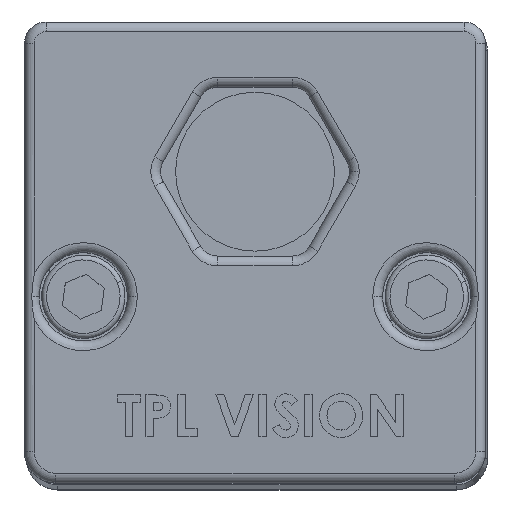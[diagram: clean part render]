
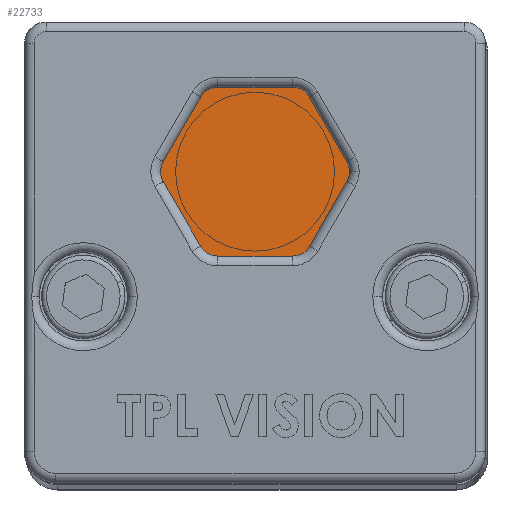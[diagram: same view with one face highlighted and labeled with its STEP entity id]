
A CAD part, top view. The second image highlights one B-rep face of the part: STEP entity #22733.
In plain terms, the highlighted planar face has unit normal (0, 0, 1).
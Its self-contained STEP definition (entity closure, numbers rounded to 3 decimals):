
#6062 = DIRECTION ( 'NONE',  ( 1., 0., 0. ) ) ;
#6470 = CARTESIAN_POINT ( 'NONE',  ( -18.923, 15.5, 324.5 ) ) ;
#6471 = DIRECTION ( 'NONE',  ( -0.5, -0.866, 0. ) ) ;
#6472 = VECTOR ( 'NONE', #6471, 1000. ) ;
#6473 = CARTESIAN_POINT ( 'NONE',  ( -15.112, 22.1, 324.5 ) ) ;
#6474 = LINE ( 'NONE', #6473, #6472 ) ;
#6475 = CARTESIAN_POINT ( 'NONE',  ( -15.112, 22.1, 324.5 ) ) ;
#6476 = CARTESIAN_POINT ( 'NONE',  ( -13.38, 23.1, 324.5 ) ) ;
#6635 = DIRECTION ( 'NONE',  ( 0.5, -0.866, 0. ) ) ;
#6636 = VECTOR ( 'NONE', #6635, 1000. ) ;
#6637 = CARTESIAN_POINT ( 'NONE',  ( -18.923, 13.5, 324.5 ) ) ;
#6638 = LINE ( 'NONE', #6637, #6636 ) ;
#6639 = CARTESIAN_POINT ( 'NONE',  ( -15.112, 6.9, 324.5 ) ) ;
#6644 = CARTESIAN_POINT ( 'NONE',  ( -18.923, 13.5, 324.5 ) ) ;
#6648 = DIRECTION ( 'NONE',  ( 0., 0., 1. ) ) ;
#6649 = CARTESIAN_POINT ( 'NONE',  ( -5.759, 7.9, 324.5 ) ) ;
#6650 = AXIS2_PLACEMENT_3D ( 'NONE', #6649, #6648, #6062 ) ;
#6651 = CIRCLE ( 'NONE', #6650, 2. ) ;
#6652 = CARTESIAN_POINT ( 'NONE',  ( -5.759, 5.9, 324.5 ) ) ;
#6653 = DIRECTION ( 'NONE',  ( 1., 0., 0. ) ) ;
#6654 = VECTOR ( 'NONE', #6653, 1000. ) ;
#6655 = CARTESIAN_POINT ( 'NONE',  ( -13.38, 5.9, 324.5 ) ) ;
#6656 = LINE ( 'NONE', #6655, #6654 ) ;
#6657 = CARTESIAN_POINT ( 'NONE',  ( -13.38, 5.9, 324.5 ) ) ;
#6658 = DIRECTION ( 'NONE',  ( 1., 0., 0. ) ) ;
#6659 = DIRECTION ( 'NONE',  ( 0., 0., 1. ) ) ;
#6660 = CARTESIAN_POINT ( 'NONE',  ( -13.38, 7.9, 324.5 ) ) ;
#6661 = AXIS2_PLACEMENT_3D ( 'NONE', #6660, #6659, #6658 ) ;
#6666 = CIRCLE ( 'NONE', #6661, 2. ) ;
#6903 = CARTESIAN_POINT ( 'NONE',  ( -4.027, 6.9, 324.5 ) ) ;
#6957 = FACE_OUTER_BOUND ( 'NONE', #22734, .T. ) ;
#7020 = DIRECTION ( 'NONE',  ( 1., 0., 0. ) ) ;
#7021 = DIRECTION ( 'NONE',  ( 0., 0., 1. ) ) ;
#7022 = CARTESIAN_POINT ( 'NONE',  ( -13.38, 21.1, 324.5 ) ) ;
#7023 = AXIS2_PLACEMENT_3D ( 'NONE', #7022, #7021, #7020 ) ;
#7026 = PLANE ( 'NONE',  #7023 ) ;
#7127 = CARTESIAN_POINT ( 'NONE',  ( -0.217, 13.5, 324.5 ) ) ;
#7128 = DIRECTION ( 'NONE',  ( 0.5, 0.866, 0. ) ) ;
#7129 = VECTOR ( 'NONE', #7128, 1000. ) ;
#7130 = CARTESIAN_POINT ( 'NONE',  ( -4.027, 6.9, 324.5 ) ) ;
#7131 = LINE ( 'NONE', #7130, #7129 ) ;
#7140 = VECTOR ( 'NONE', #7422, 1000. ) ;
#7141 = CARTESIAN_POINT ( 'NONE',  ( -0.217, 15.5, 324.5 ) ) ;
#7142 = LINE ( 'NONE', #7141, #7140 ) ;
#7148 = DIRECTION ( 'NONE',  ( 1., 0., 0. ) ) ;
#7149 = DIRECTION ( 'NONE',  ( 0., 0., 1. ) ) ;
#7150 = CARTESIAN_POINT ( 'NONE',  ( -1.949, 14.5, 324.5 ) ) ;
#7151 = AXIS2_PLACEMENT_3D ( 'NONE', #7150, #7149, #7148 ) ;
#7152 = CIRCLE ( 'NONE', #7151, 2. ) ;
#7153 = DIRECTION ( 'NONE',  ( 1., 0., 0. ) ) ;
#7154 = DIRECTION ( 'NONE',  ( 0., 0., 1. ) ) ;
#7155 = CARTESIAN_POINT ( 'NONE',  ( -17.191, 14.5, 324.5 ) ) ;
#7156 = AXIS2_PLACEMENT_3D ( 'NONE', #7155, #7154, #7153 ) ;
#7161 = CIRCLE ( 'NONE', #7156, 2. ) ;
#7201 = DIRECTION ( 'NONE',  ( 1., 0., 0. ) ) ;
#7202 = DIRECTION ( 'NONE',  ( 0., 0., 1. ) ) ;
#7203 = CARTESIAN_POINT ( 'NONE',  ( -13.38, 21.1, 324.5 ) ) ;
#7204 = AXIS2_PLACEMENT_3D ( 'NONE', #7203, #7202, #7201 ) ;
#7276 = CIRCLE ( 'NONE', #7204, 2. ) ;
#7388 = DIRECTION ( 'NONE',  ( -1., 0., 0. ) ) ;
#7389 = VECTOR ( 'NONE', #7388, 1000. ) ;
#7390 = CARTESIAN_POINT ( 'NONE',  ( -5.759, 23.1, 324.5 ) ) ;
#7391 = LINE ( 'NONE', #7390, #7389 ) ;
#7393 = CARTESIAN_POINT ( 'NONE',  ( -5.759, 23.1, 324.5 ) ) ;
#7394 = DIRECTION ( 'NONE',  ( 1., 0., 0. ) ) ;
#7422 = DIRECTION ( 'NONE',  ( -0.5, 0.866, 0. ) ) ;
#7501 = DIRECTION ( 'NONE',  ( 0., 0., 1. ) ) ;
#7502 = CARTESIAN_POINT ( 'NONE',  ( -5.759, 21.1, 324.5 ) ) ;
#7503 = AXIS2_PLACEMENT_3D ( 'NONE', #7502, #7501, #7394 ) ;
#7504 = CIRCLE ( 'NONE', #7503, 2. ) ;
#7505 = CARTESIAN_POINT ( 'NONE',  ( -4.027, 22.1, 324.5 ) ) ;
#19490 = VERTEX_POINT ( 'NONE', #27950 ) ;
#19491 = VERTEX_POINT ( 'NONE', #27949 ) ;
#19560 = EDGE_CURVE ( 'NONE', #19490, #19491, #28140, .T. ) ;
#22416 = ORIENTED_EDGE ( 'NONE', *, *, #22823, .T. ) ;
#22557 = VERTEX_POINT ( 'NONE', #6476 ) ;
#22558 = VERTEX_POINT ( 'NONE', #6475 ) ;
#22559 = ORIENTED_EDGE ( 'NONE', *, *, #22560, .T. ) ;
#22560 = EDGE_CURVE ( 'NONE', #22558, #22561, #6474, .T. ) ;
#22561 = VERTEX_POINT ( 'NONE', #6470 ) ;
#22615 = VERTEX_POINT ( 'NONE', #6644 ) ;
#22616 = ORIENTED_EDGE ( 'NONE', *, *, #22619, .T. ) ;
#22617 = ORIENTED_EDGE ( 'NONE', *, *, #22630, .T. ) ;
#22618 = VERTEX_POINT ( 'NONE', #6639 ) ;
#22619 = EDGE_CURVE ( 'NONE', #22615, #22618, #6638, .T. ) ;
#22620 = ORIENTED_EDGE ( 'NONE', *, *, #22628, .T. ) ;
#22628 = EDGE_CURVE ( 'NONE', #22618, #22629, #6666, .T. ) ;
#22629 = VERTEX_POINT ( 'NONE', #6657 ) ;
#22630 = EDGE_CURVE ( 'NONE', #22629, #22631, #6656, .T. ) ;
#22631 = VERTEX_POINT ( 'NONE', #6652 ) ;
#22632 = ORIENTED_EDGE ( 'NONE', *, *, #22633, .T. ) ;
#22633 = EDGE_CURVE ( 'NONE', #22631, #22703, #6651, .T. ) ;
#22703 = VERTEX_POINT ( 'NONE', #6903 ) ;
#22711 = ORIENTED_EDGE ( 'NONE', *, *, #22712, .T. ) ;
#22712 = EDGE_CURVE ( 'NONE', #22703, #22713, #7131, .T. ) ;
#22713 = VERTEX_POINT ( 'NONE', #7127 ) ;
#22733 = ADVANCED_FACE ( 'NONE', ( #6957 ), #7026, .T. ) ;
#22734 = EDGE_LOOP ( 'NONE', ( #22735, #22559, #22416, #22616, #22620, #22617, #22632, #22711, #22824, #22829, #22830, #22833, #22836 ) ) ;
#22735 = ORIENTED_EDGE ( 'NONE', *, *, #22781, .T. ) ;
#22781 = EDGE_CURVE ( 'NONE', #22557, #22558, #7276, .T. ) ;
#22823 = EDGE_CURVE ( 'NONE', #22561, #22615, #7161, .T. ) ;
#22824 = ORIENTED_EDGE ( 'NONE', *, *, #22825, .T. ) ;
#22825 = EDGE_CURVE ( 'NONE', #22713, #19490, #7152, .T. ) ;
#22829 = ORIENTED_EDGE ( 'NONE', *, *, #19560, .T. ) ;
#22830 = ORIENTED_EDGE ( 'NONE', *, *, #22831, .T. ) ;
#22831 = EDGE_CURVE ( 'NONE', #19491, #22832, #7142, .T. ) ;
#22832 = VERTEX_POINT ( 'NONE', #7505 ) ;
#22833 = ORIENTED_EDGE ( 'NONE', *, *, #22834, .T. ) ;
#22834 = EDGE_CURVE ( 'NONE', #22832, #22835, #7504, .T. ) ;
#22835 = VERTEX_POINT ( 'NONE', #7393 ) ;
#22836 = ORIENTED_EDGE ( 'NONE', *, *, #22837, .T. ) ;
#22837 = EDGE_CURVE ( 'NONE', #22835, #22557, #7391, .T. ) ;
#27694 = DIRECTION ( 'NONE',  ( 1., 0., 0. ) ) ;
#27700 = DIRECTION ( 'NONE',  ( 0., 0., 1. ) ) ;
#27949 = CARTESIAN_POINT ( 'NONE',  ( -0.217, 15.5, 324.5 ) ) ;
#27950 = CARTESIAN_POINT ( 'NONE',  ( 0.051, 14.5, 324.5 ) ) ;
#28138 = CARTESIAN_POINT ( 'NONE',  ( -1.949, 14.5, 324.5 ) ) ;
#28139 = AXIS2_PLACEMENT_3D ( 'NONE', #28138, #27700, #27694 ) ;
#28140 = CIRCLE ( 'NONE', #28139, 2. ) ;
